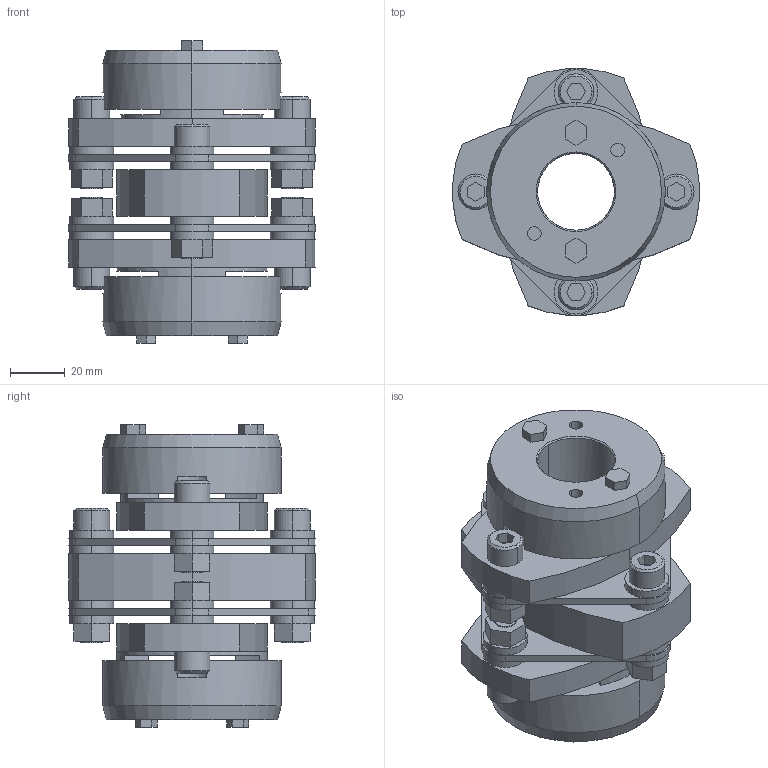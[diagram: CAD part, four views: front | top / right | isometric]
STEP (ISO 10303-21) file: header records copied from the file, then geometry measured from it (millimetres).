
FILE_DESCRIPTION((''),'2;1');
FILE_NAME('LCD-90T7-28×35.stp','2015-11-01T19:35:09',(''),(''),'AutoCAD STEP 2000i','AutoCAD 2000i',', , ');
FILE_SCHEMA(('CONFIG_CONTROL_DESIGN'));
Length unit declared in the file: millimetre
Products named in the file (11): LCD-90T7-30×35; 忣兜1; LC90T7-T035; LC90T7-T032; LC90T7-T030-1; LC90T7-T030; LC90T7-T025-1; LC90T7-T025; LC90T7-T019-1; LC90T7-T019; LCD90-ITA
Assembly tree (11 placements, depth 2):
  LCD-90T7-30×35
    忣兜1
    LC90T7-T035  x2
    LC90T7-T032
    LC90T7-T030-1
    LC90T7-T030
    LC90T7-T025-1
    LC90T7-T025
    LC90T7-T019-1
    LC90T7-T019
    LCD90-ITA
Bounding box: 90 x 89.94 x 110.3 mm (x, y, z)
Volume: 273012.5 mm3; surface area: 75188.4 mm2
Topology: 1 solids, 1 shells, 329 faces, 804 edges, 526 vertices
Faces by surface type: plane 181, cylinder 124, cone 24
Entity records: 10009 total; most frequent: DIRECTION 1782, CARTESIAN_POINT 1671, ORIENTED_EDGE 1608, EDGE_CURVE 804, AXIS2_PLACEMENT_3D 637, VERTEX_POINT 526, VECTOR 508, LINE 508
